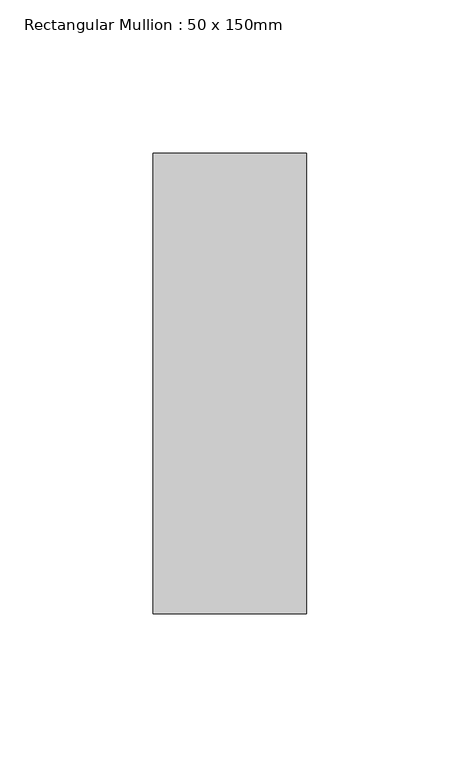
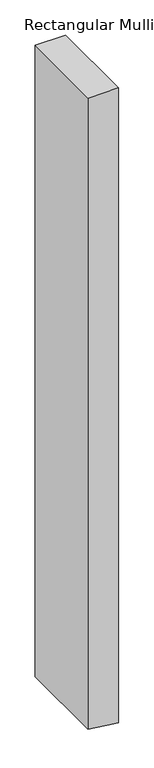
"""IFC4 building model written with IfcOpenShell, lengths in millimetres: member geometry, Rectangular Mullion : 50 x 150mm."""

from ifc_helpers import new_model, si_unit, frame, origin, place, context, project, spatial, polyline, outline, extrude, source, transform, mapped, element, save


def rectangular_mullion_50_x_150mm_bdb749f9(model_context):
    return source(origin(), model_context, "Body", "SweptSolid", [
        extrude(outline(polyline([(0.0, 25.0), (0.0, -25.0), (-1090.7337999, -25.0), (-1094.2139591, 5.6423937), (-1096.4124673, 25.0), (0.0, 25.0)])), frame((0.0, -75.0, 0.0), z_axis=(0.0, 1.0, 0.0), x_axis=(0.0, 0.0, 1.0)), (0.0, 0.0, 1.0), 150.0),
    ])


if __name__ == "__main__":
    model = new_model("IFC4")
    model_context = context("Model", 3, world=origin())
    ifc_project = project(units=[si_unit("LENGTHUNIT", "METRE", prefix="MILLI")], contexts=[model_context])
    site = spatial("IfcSite", under=ifc_project)
    building = spatial("IfcBuilding", under=site)
    placement = place(None, origin())
    rectangular_mullion_50_x_150mm_shape = rectangular_mullion_50_x_150mm_bdb749f9(model_context)
    element("IfcMember", 1, ObjectType="Rectangular Mullion : 50 x 150mm", at=placement, inside=building, context=model_context, shape_type="MappedRepresentation", body=[
        mapped(rectangular_mullion_50_x_150mm_shape, transform((0.0, 0.0, 0.0), x_axis=(1.0, 0.0, 0.0), y_axis=(0.0, 1.0, 0.0), z_axis=(0.0, 0.0, 1.0))),
    ])
    save(model, "model.ifc")
